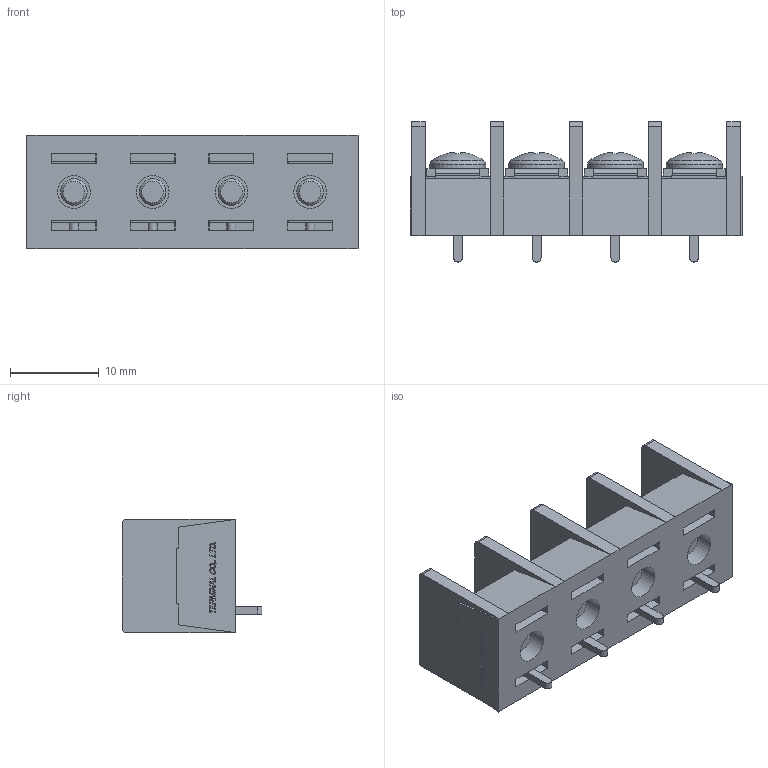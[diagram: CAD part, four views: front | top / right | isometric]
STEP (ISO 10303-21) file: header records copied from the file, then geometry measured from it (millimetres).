
FILE_DESCRIPTION(/* description */ ('Alibre Inc.'),/* implementation_level */ '2;1');
FILE_NAME(/* name */ 'export0',/* time_stamp */ '2015-10-20T19:39:57+09:00',/* author */ (''),/* organization */ (''),/* preprocessor_version */ 'ST-DEVELOPER v14',/* originating_system */ 'Alibre',/* authorisation */ '');
FILE_SCHEMA (('CONFIG_CONTROL_DESIGN'));
Length unit declared in the file: centimetre
Products named in the file (1): ID_1
Bounding box: 37.47 x 15.8 x 12.8 mm (x, y, z)
Volume: 3531.6 mm3; surface area: 4438.1 mm2
Topology: 1 solids, 69 shells, 1514 faces, 3908 edges, 2588 vertices
Faces by surface type: plane 1128, bspline 312, cylinder 42, cone 20, torus 8, sphere 4
Full cylindrical faces by diameter (mm): 3 x8, 3.7 x4, 4.6 x4, 6.3 x4
Entity records: 43957 total; most frequent: CARTESIAN_POINT 10741, ORIENTED_EDGE 7728, DIRECTION 4516, EDGE_CURVE 3864, VECTOR 2990, LINE 2990, VERTEX_POINT 2576, EDGE_LOOP 1658
